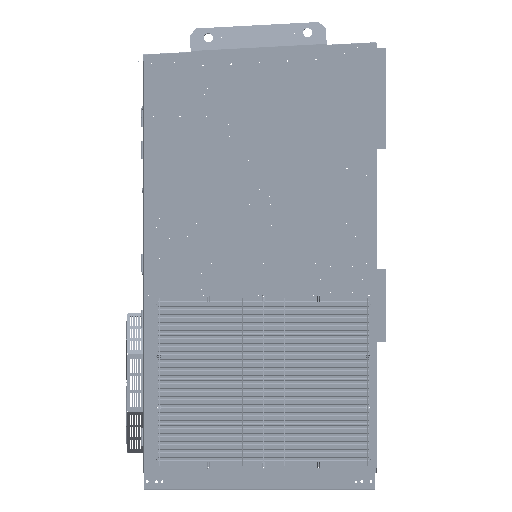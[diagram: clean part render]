
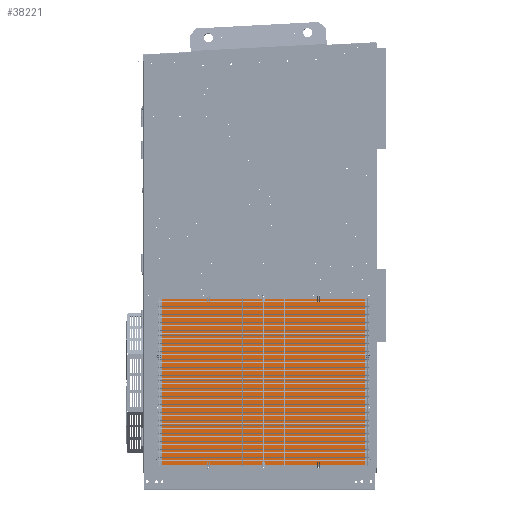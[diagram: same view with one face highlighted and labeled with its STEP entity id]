
A CAD part, left-side view. The second image highlights one B-rep face of the part: STEP entity #38221.
In plain terms, the highlighted planar face has unit normal (-1, 0, 0) as drawn and (0, 0, 1) by its records, which use the part's own axes.
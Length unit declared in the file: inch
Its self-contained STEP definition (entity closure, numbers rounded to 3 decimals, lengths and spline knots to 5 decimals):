
#6073 = CARTESIAN_POINT ( 'NONE',  ( 0., -44., 0. ) ) ;
#6794 = DIRECTION ( 'NONE',  ( 0., -1., 0. ) ) ;
#6938 = CARTESIAN_POINT ( 'NONE',  ( 36., 0., 0. ) ) ;
#9259 = VERTEX_POINT ( 'NONE', #253899 ) ;
#16276 = ORIENTED_EDGE ( 'NONE', *, *, #165463, .T. ) ;
#19401 = DIRECTION ( 'NONE',  ( 1., 0., 0. ) ) ;
#31304 = ORIENTED_EDGE ( 'NONE', *, *, #305250, .T. ) ;
#38221 = ADVANCED_FACE ( 'NONE', ( #115013 ), #319958, .T. ) ;
#47224 = ORIENTED_EDGE ( 'NONE', *, *, #171122, .T. ) ;
#50797 = LINE ( 'NONE', #291727, #171525 ) ;
#62597 = CARTESIAN_POINT ( 'NONE',  ( 36., -22., 0. ) ) ;
#115013 = FACE_OUTER_BOUND ( 'NONE', #164372, .T. ) ;
#135861 = VERTEX_POINT ( 'NONE', #189331 ) ;
#137989 = DIRECTION ( 'NONE',  ( -1., 0., 0. ) ) ;
#141280 = LINE ( 'NONE', #273984, #314882 ) ;
#149481 = LINE ( 'NONE', #304967, #247659 ) ;
#160783 = LINE ( 'NONE', #6938, #306302 ) ;
#164372 = EDGE_LOOP ( 'NONE', ( #16276, #47224, #31304, #291387 ) ) ;
#165463 = EDGE_CURVE ( 'NONE', #9259, #203024, #149481, .T. ) ;
#171122 = EDGE_CURVE ( 'NONE', #203024, #135861, #160783, .T. ) ;
#171525 = VECTOR ( 'NONE', #19401, 39.37008 ) ;
#187015 = EDGE_CURVE ( 'NONE', #264490, #9259, #50797, .T. ) ;
#189331 = CARTESIAN_POINT ( 'NONE',  ( 0., 0., 0. ) ) ;
#203024 = VERTEX_POINT ( 'NONE', #244918 ) ;
#208688 = AXIS2_PLACEMENT_3D ( 'NONE', #62597, #293705, #328093 ) ;
#244918 = CARTESIAN_POINT ( 'NONE',  ( 36., 0., 0. ) ) ;
#247659 = VECTOR ( 'NONE', #282200, 39.37008 ) ;
#253899 = CARTESIAN_POINT ( 'NONE',  ( 36., -44., 0. ) ) ;
#264490 = VERTEX_POINT ( 'NONE', #6073 ) ;
#273984 = CARTESIAN_POINT ( 'NONE',  ( 0., -22., 0. ) ) ;
#282200 = DIRECTION ( 'NONE',  ( 0., 1., 0. ) ) ;
#291387 = ORIENTED_EDGE ( 'NONE', *, *, #187015, .T. ) ;
#291727 = CARTESIAN_POINT ( 'NONE',  ( 36., -44., 0. ) ) ;
#293705 = DIRECTION ( 'NONE',  ( 0., 0., 1. ) ) ;
#304967 = CARTESIAN_POINT ( 'NONE',  ( 36., -22., 0. ) ) ;
#305250 = EDGE_CURVE ( 'NONE', #135861, #264490, #141280, .T. ) ;
#306302 = VECTOR ( 'NONE', #137989, 39.37008 ) ;
#314882 = VECTOR ( 'NONE', #6794, 39.37008 ) ;
#319958 = PLANE ( 'NONE',  #208688 ) ;
#328093 = DIRECTION ( 'NONE',  ( 1., 0., 0. ) ) ;
